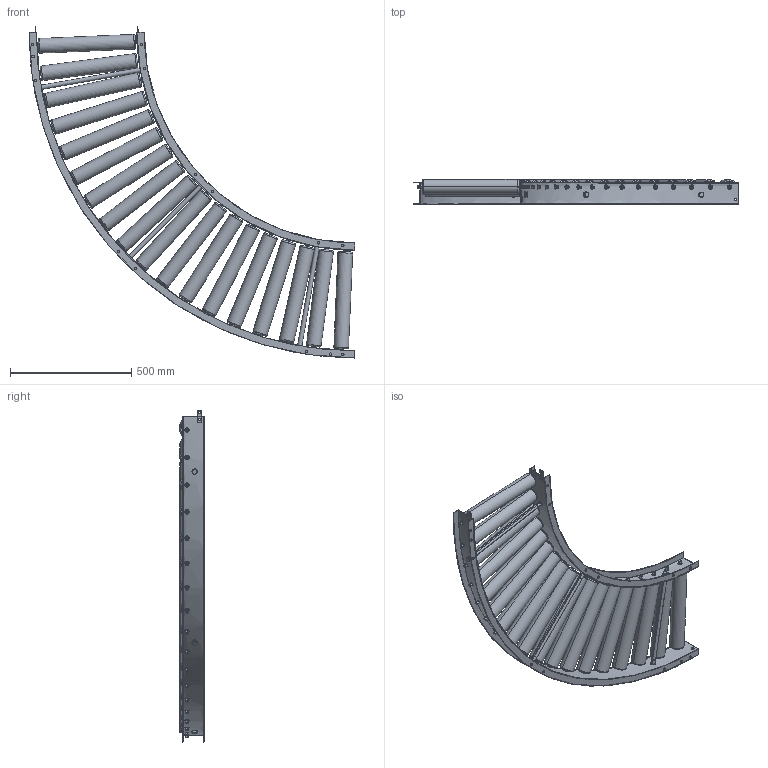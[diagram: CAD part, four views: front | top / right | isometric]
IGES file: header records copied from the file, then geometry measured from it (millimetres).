
Start section: SolidWorks IGES file using analytic representation for surfaces
Global section: file name: C:\Users\0656\Desktop\変換ツール\iges変換\ARS-6015_C.igs; native system: SolidWorks 2023; preprocessor: SolidWorks 2023; author: 0656; date: 240315.111622; units: millimetre
Bounding box: 1345 x 101.75 x 1370.08 mm (x, y, z)
Surface area: 3441288.7 mm2 (no closed solid volume)
Topology: 0 solids, 0 shells, 820 faces, 17884 edges, 17884 vertices
Faces by surface type: revolution 442, bspline 378
